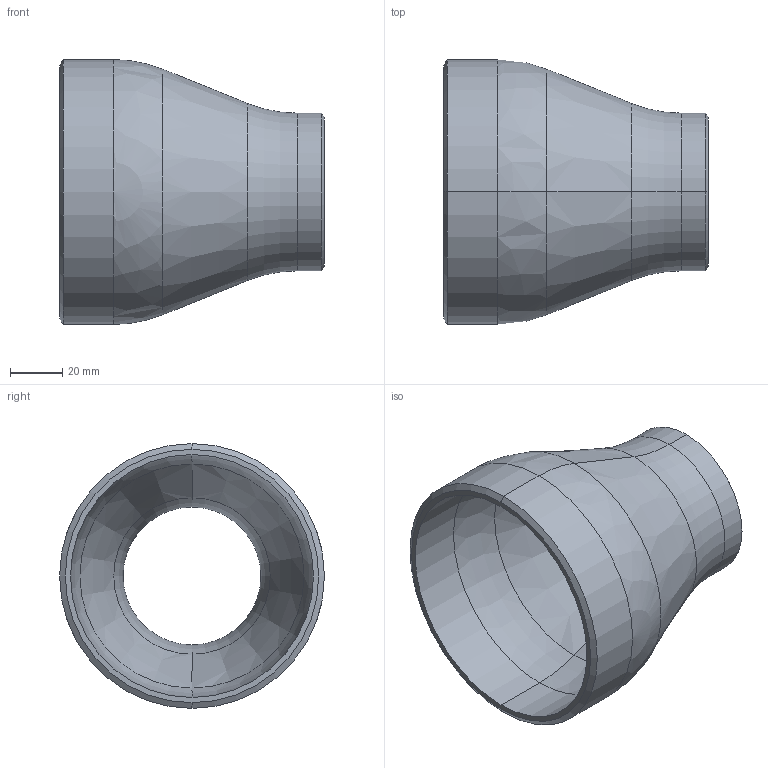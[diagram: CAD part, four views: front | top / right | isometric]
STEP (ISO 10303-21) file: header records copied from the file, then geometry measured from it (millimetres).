
FILE_DESCRIPTION (( 'STEP AP214' ), '1' );
FILE_NAME ('Concentric-reducer(1)_SGP-90Ax50A.STEP', '2022-05-09T02:39:51', ( 'ASIS User' ), ( 'ASIS User' ), 'SwSTEP 2.0', 'SolidWorks 2022', '' );
FILE_SCHEMA (( 'AUTOMOTIVE_DESIGN' ));
Length unit declared in the file: millimetre
Products named in the file (1): Concentric-reducer(1)_SGP-90Ax50A
Bounding box: 101.6 x 101.6 x 101.6 mm (x, y, z)
Volume: 101600.1 mm3; surface area: 53643 mm2
Topology: 1 solids, 1 shells, 26 faces, 56 edges, 30 vertices
Faces by surface type: cylinder 8, cone 8, torus 6, plane 2, sphere 2
Entity records: 710 total; most frequent: DIRECTION 142, CARTESIAN_POINT 107, ORIENTED_EDGE 104, AXIS2_PLACEMENT_3D 63, EDGE_CURVE 52, CIRCLE 36, VERTEX_POINT 28, EDGE_LOOP 28
